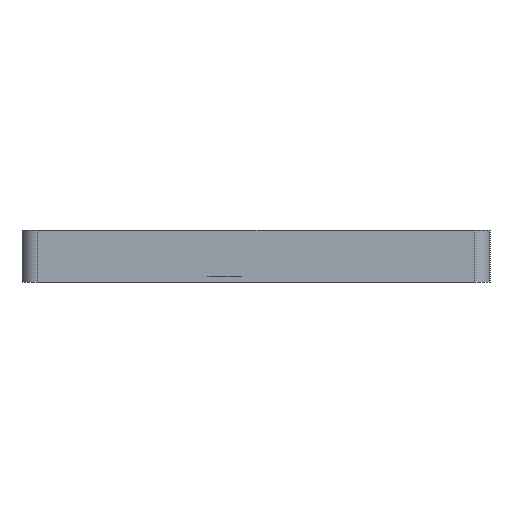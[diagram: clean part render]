
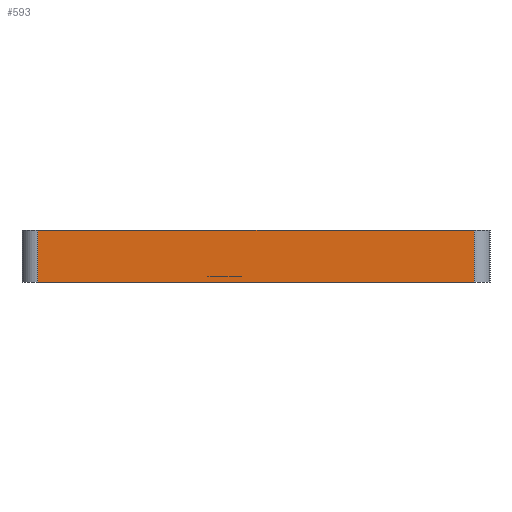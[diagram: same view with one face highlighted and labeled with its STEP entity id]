
A CAD part, left-side view. The second image highlights one B-rep face of the part: STEP entity #593.
In plain terms, the highlighted planar face has unit normal (-1, 0, 0).
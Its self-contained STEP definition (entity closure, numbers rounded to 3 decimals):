
#593=ADVANCED_FACE('',(#2310),#2312,.T.);
#2310=FACE_BOUND('',#2311,.T.);
#2311=EDGE_LOOP('',(#3471,#3472,#3473,#3474));
#2312=PLANE('',#2313);
#2313=AXIS2_PLACEMENT_3D('',#2314,#2315,#2316);
#2314=CARTESIAN_POINT('',(-290.,42.,0.));
#2315=DIRECTION('',(-1.,0.,0.));
#2316=DIRECTION('',(0.,-1.,0.));
#3471=ORIENTED_EDGE('',*,*,#3709,.T.);
#3472=ORIENTED_EDGE('',*,*,#3873,.T.);
#3473=ORIENTED_EDGE('',*,*,#3829,.F.);
#3474=ORIENTED_EDGE('',*,*,#3874,.F.);
#3709=EDGE_CURVE('',#3972,#3970,#3973,.T.);
#3829=EDGE_CURVE('',#4210,#4212,#4213,.T.);
#3873=EDGE_CURVE('',#3970,#4212,#4297,.T.);
#3874=EDGE_CURVE('',#3972,#4210,#4298,.T.);
#3970=VERTEX_POINT('',#4512);
#3972=VERTEX_POINT('',#4517);
#3973=LINE('',#4518,#4519);
#4210=VERTEX_POINT('',#5107);
#4212=VERTEX_POINT('',#5112);
#4213=LINE('',#5113,#5114);
#4297=LINE('',#5325,#5326);
#4298=LINE('',#5328,#5329);
#4512=CARTESIAN_POINT('',(-290.,-42.,0.));
#4517=CARTESIAN_POINT('',(-290.,42.,0.));
#4518=CARTESIAN_POINT('',(-290.,42.,0.));
#4519=VECTOR('',#4520,1.);
#4520=DIRECTION('',(0.,-1.,0.));
#5107=CARTESIAN_POINT('',(-290.,42.,10.));
#5112=CARTESIAN_POINT('',(-290.,-42.,10.));
#5113=CARTESIAN_POINT('',(-290.,42.,10.));
#5114=VECTOR('',#5115,1.);
#5115=DIRECTION('',(0.,-1.,0.));
#5325=CARTESIAN_POINT('',(-290.,-42.,0.));
#5326=VECTOR('',#5327,1.);
#5327=DIRECTION('',(0.,0.,1.));
#5328=CARTESIAN_POINT('',(-290.,42.,0.));
#5329=VECTOR('',#5330,1.);
#5330=DIRECTION('',(0.,0.,1.));
